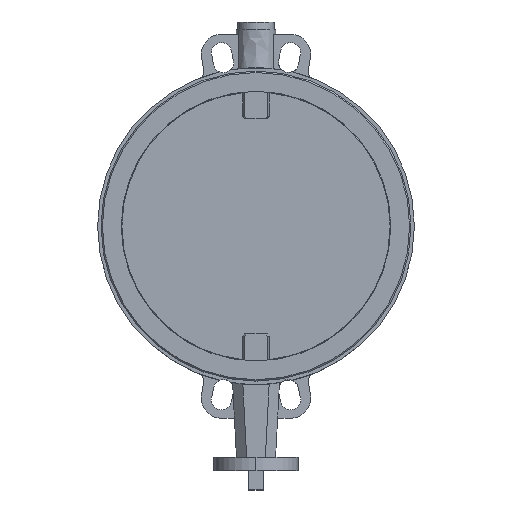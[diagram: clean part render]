
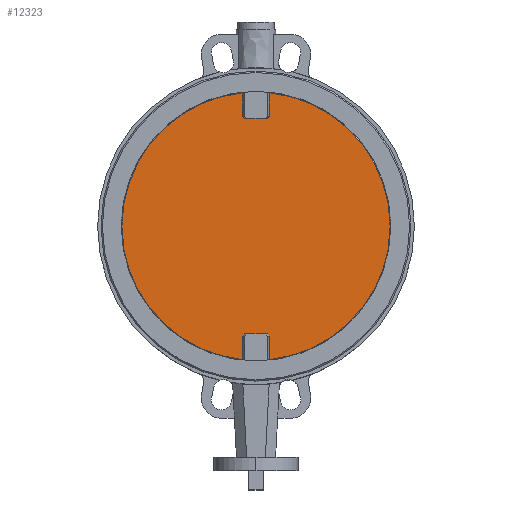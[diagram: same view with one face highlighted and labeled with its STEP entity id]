
A CAD part, top view. The second image highlights one B-rep face of the part: STEP entity #12323.
In plain terms, the highlighted planar face has unit normal (0, 0, 1).
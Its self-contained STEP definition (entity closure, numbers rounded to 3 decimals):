
#10845=CARTESIAN_POINT('',(199.0,0.,54.));
#10846=VERTEX_POINT('',#10845);
#10853=CARTESIAN_POINT('',(19.774,-198.015,54.));
#10854=VERTEX_POINT('',#10853);
#10855=CARTESIAN_POINT('',(0.0,0.0,54.0));
#10856=DIRECTION('',(0.0,0.0,-1.0));
#10857=DIRECTION('',(-1.0,0.0,0.0));
#10858=AXIS2_PLACEMENT_3D('',#10855,#10856,#10857);
#10859=CIRCLE('',#10858,199.0);
#10860=EDGE_CURVE('',#10846,#10854,#10859,.T.);
#10904=CARTESIAN_POINT('',(-199.0,0.,54.));
#10905=VERTEX_POINT('',#10904);
#10939=CARTESIAN_POINT('',(-19.774,-198.015,54.));
#10940=VERTEX_POINT('',#10939);
#10948=CARTESIAN_POINT('',(0.0,0.0,54.0));
#10949=DIRECTION('',(0.0,0.0,-1.0));
#10950=DIRECTION('',(-1.0,0.0,0.0));
#10951=AXIS2_PLACEMENT_3D('',#10948,#10949,#10950);
#10952=CIRCLE('',#10951,199.0);
#10953=EDGE_CURVE('',#10940,#10905,#10952,.T.);
#11807=CARTESIAN_POINT('',(19.774,163.,54.));
#11808=VERTEX_POINT('',#11807);
#11816=CARTESIAN_POINT('',(19.774,198.015,54.));
#11817=VERTEX_POINT('',#11816);
#11818=CARTESIAN_POINT('',(19.774,163.,54.));
#11819=DIRECTION('',(0.0,1.0,0.0));
#11820=VECTOR('',#11819,35.015);
#11821=LINE('',#11818,#11820);
#11822=EDGE_CURVE('',#11808,#11817,#11821,.T.);
#11841=CARTESIAN_POINT('',(16.733,160.,54.));
#11842=VERTEX_POINT('',#11841);
#11850=CARTESIAN_POINT('',(16.733,160.,54.));
#11851=CARTESIAN_POINT('',(18.13,161.375,54.));
#11852=CARTESIAN_POINT('',(19.774,163.,54.));
#11860=(BOUNDED_CURVE()B_SPLINE_CURVE(2,(#11850,#11851,#11852),.UNSPECIFIED.,.F.,.U.)B_SPLINE_CURVE_WITH_KNOTS((3,3),(0.0,4.271),.UNSPECIFIED.)CURVE()GEOMETRIC_REPRESENTATION_ITEM()RATIONAL_B_SPLINE_CURVE((1.0,1.003,1.0))REPRESENTATION_ITEM(''));
#11861=EDGE_CURVE('',#11842,#11808,#11860,.T.);
#11912=CARTESIAN_POINT('',(-19.774,-163.,54.));
#11913=VERTEX_POINT('',#11912);
#11921=CARTESIAN_POINT('',(-19.774,-163.,54.));
#11922=DIRECTION('',(0.0,-1.0,0.0));
#11923=VECTOR('',#11922,35.015);
#11924=LINE('',#11921,#11923);
#11925=EDGE_CURVE('',#11913,#10940,#11924,.T.);
#11938=CARTESIAN_POINT('',(-16.733,-160.,54.));
#11939=VERTEX_POINT('',#11938);
#11947=CARTESIAN_POINT('',(-16.733,-160.,54.));
#11948=CARTESIAN_POINT('',(-18.13,-161.375,54.));
#11949=CARTESIAN_POINT('',(-19.774,-163.,54.));
#11957=(BOUNDED_CURVE()B_SPLINE_CURVE(2,(#11947,#11948,#11949),.UNSPECIFIED.,.F.,.U.)B_SPLINE_CURVE_WITH_KNOTS((3,3),(0.0,4.271),.UNSPECIFIED.)CURVE()GEOMETRIC_REPRESENTATION_ITEM()RATIONAL_B_SPLINE_CURVE((1.0,1.003,1.0))REPRESENTATION_ITEM(''));
#11958=EDGE_CURVE('',#11939,#11913,#11957,.T.);
#11995=CARTESIAN_POINT('',(-16.733,160.,54.));
#11996=VERTEX_POINT('',#11995);
#12004=CARTESIAN_POINT('',(-16.733,160.,54.));
#12005=DIRECTION('',(1.0,0.0,0.0));
#12006=VECTOR('',#12005,33.466);
#12007=LINE('',#12004,#12006);
#12008=EDGE_CURVE('',#11996,#11842,#12007,.T.);
#12046=CARTESIAN_POINT('',(-19.774,198.015,54.));
#12047=VERTEX_POINT('',#12046);
#12048=CARTESIAN_POINT('',(0.0,0.0,54.0));
#12049=DIRECTION('',(0.0,0.0,-1.0));
#12050=DIRECTION('',(-1.0,0.0,0.0));
#12051=AXIS2_PLACEMENT_3D('',#12048,#12049,#12050);
#12052=CIRCLE('',#12051,199.0);
#12053=EDGE_CURVE('',#10905,#12047,#12052,.T.);
#12078=CARTESIAN_POINT('',(0.0,0.0,54.0));
#12079=DIRECTION('',(0.0,0.0,-1.0));
#12080=DIRECTION('',(-1.0,0.0,0.0));
#12081=AXIS2_PLACEMENT_3D('',#12078,#12079,#12080);
#12082=CIRCLE('',#12081,199.0);
#12083=EDGE_CURVE('',#11817,#10846,#12082,.T.);
#12161=CARTESIAN_POINT('',(16.733,-160.,54.));
#12162=VERTEX_POINT('',#12161);
#12170=CARTESIAN_POINT('',(16.733,-160.,54.));
#12171=DIRECTION('',(-1.0,0.0,0.0));
#12172=VECTOR('',#12171,33.466);
#12173=LINE('',#12170,#12172);
#12174=EDGE_CURVE('',#12162,#11939,#12173,.T.);
#12264=CARTESIAN_POINT('',(0.0,0.0,54.0));
#12265=DIRECTION('',(0.0,0.0,1.0));
#12266=DIRECTION('',(-1.0,0.0,0.0));
#12267=AXIS2_PLACEMENT_3D('',#12264,#12265,#12266);
#12268=PLANE('',#12267);
#12269=ORIENTED_EDGE('',*,*,#11925,.F.);
#12270=ORIENTED_EDGE('',*,*,#11958,.F.);
#12271=ORIENTED_EDGE('',*,*,#12174,.F.);
#12272=CARTESIAN_POINT('',(19.774,-163.,54.));
#12273=VERTEX_POINT('',#12272);
#12274=CARTESIAN_POINT('',(19.774,-163.,54.));
#12275=CARTESIAN_POINT('',(18.13,-161.375,54.));
#12276=CARTESIAN_POINT('',(16.733,-160.,54.));
#12284=(BOUNDED_CURVE()B_SPLINE_CURVE(2,(#12274,#12275,#12276),.UNSPECIFIED.,.F.,.U.)B_SPLINE_CURVE_WITH_KNOTS((3,3),(0.0,4.271),.UNSPECIFIED.)CURVE()GEOMETRIC_REPRESENTATION_ITEM()RATIONAL_B_SPLINE_CURVE((1.0,1.003,1.0))REPRESENTATION_ITEM(''));
#12285=EDGE_CURVE('',#12273,#12162,#12284,.T.);
#12286=ORIENTED_EDGE('',*,*,#12285,.F.);
#12287=CARTESIAN_POINT('',(19.774,-198.015,54.));
#12288=DIRECTION('',(0.0,1.0,0.0));
#12289=VECTOR('',#12288,35.015);
#12290=LINE('',#12287,#12289);
#12291=EDGE_CURVE('',#10854,#12273,#12290,.T.);
#12292=ORIENTED_EDGE('',*,*,#12291,.F.);
#12293=ORIENTED_EDGE('',*,*,#10860,.F.);
#12294=ORIENTED_EDGE('',*,*,#12083,.F.);
#12295=ORIENTED_EDGE('',*,*,#11822,.F.);
#12296=ORIENTED_EDGE('',*,*,#11861,.F.);
#12297=ORIENTED_EDGE('',*,*,#12008,.F.);
#12298=CARTESIAN_POINT('',(-19.774,163.,54.));
#12299=VERTEX_POINT('',#12298);
#12300=CARTESIAN_POINT('',(-19.774,163.,54.));
#12301=CARTESIAN_POINT('',(-18.13,161.375,54.));
#12302=CARTESIAN_POINT('',(-16.733,160.,54.));
#12310=(BOUNDED_CURVE()B_SPLINE_CURVE(2,(#12300,#12301,#12302),.UNSPECIFIED.,.F.,.U.)B_SPLINE_CURVE_WITH_KNOTS((3,3),(0.0,4.271),.UNSPECIFIED.)CURVE()GEOMETRIC_REPRESENTATION_ITEM()RATIONAL_B_SPLINE_CURVE((1.0,1.003,1.0))REPRESENTATION_ITEM(''));
#12311=EDGE_CURVE('',#12299,#11996,#12310,.T.);
#12312=ORIENTED_EDGE('',*,*,#12311,.F.);
#12313=CARTESIAN_POINT('',(-19.774,198.015,54.));
#12314=DIRECTION('',(0.0,-1.0,0.0));
#12315=VECTOR('',#12314,35.015);
#12316=LINE('',#12313,#12315);
#12317=EDGE_CURVE('',#12047,#12299,#12316,.T.);
#12318=ORIENTED_EDGE('',*,*,#12317,.F.);
#12319=ORIENTED_EDGE('',*,*,#12053,.F.);
#12320=ORIENTED_EDGE('',*,*,#10953,.F.);
#12321=EDGE_LOOP('',(#12269,#12270,#12271,#12286,#12292,#12293,#12294,#12295,#12296,#12297,#12312,#12318,#12319,#12320));
#12322=FACE_OUTER_BOUND('',#12321,.T.);
#12323=ADVANCED_FACE('',(#12322),#12268,.T.);
